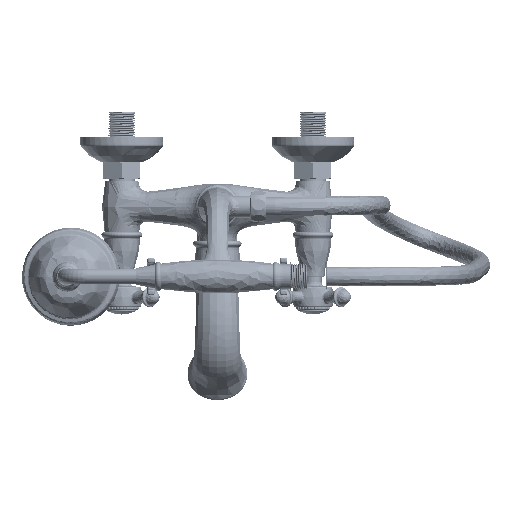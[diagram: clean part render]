
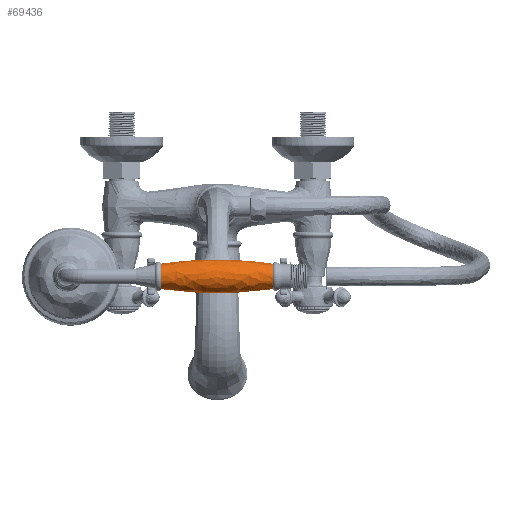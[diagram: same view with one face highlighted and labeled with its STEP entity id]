
A CAD part, top view. The second image highlights one B-rep face of the part: STEP entity #69436.
In plain terms, the highlighted free-form (B-spline) face has degree [2, 2] with [3, 9] control points.
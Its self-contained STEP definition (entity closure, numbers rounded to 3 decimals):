
#4222=(
BOUNDED_SURFACE()
B_SPLINE_SURFACE(2,2,((#104564,#104565,#104566,#104567,#104568,#104569,
#104570,#104571,#104572),(#104573,#104574,#104575,#104576,#104577,#104578,
#104579,#104580,#104581),(#104582,#104583,#104584,#104585,#104586,#104587,
#104588,#104589,#104590)),.UNSPECIFIED.,.F.,.T.,.F.)
B_SPLINE_SURFACE_WITH_KNOTS((3,3),(3,2,2,2,3),(-0.145,0.144),
(-3.142,-1.571,0.,1.571,3.142),
 .UNSPECIFIED.)
GEOMETRIC_REPRESENTATION_ITEM()
RATIONAL_B_SPLINE_SURFACE(((1.,0.707,1.,0.707,1.,
0.707,1.,0.707,1.),(0.99,0.7,
0.99,0.7,0.99,0.7,
0.99,0.7,0.99),(1.,0.707,
1.,0.707,1.,0.707,1.,0.707,1.)))
REPRESENTATION_ITEM('')
SURFACE()
);
#7570=FACE_OUTER_BOUND('',#11565,.T.);
#11565=EDGE_LOOP('',(#46441,#46442,#46443,#46444,#46445,#46446));
#22858=CIRCLE('',#73524,10.02);
#22859=CIRCLE('',#73525,10.02);
#22864=CIRCLE('',#73531,10.005);
#22865=CIRCLE('',#73532,10.005);
#22866=CIRCLE('',#73533,304.954);
#27201=VERTEX_POINT('',#104553);
#27202=VERTEX_POINT('',#104554);
#27205=VERTEX_POINT('',#104591);
#27206=VERTEX_POINT('',#104592);
#34911=EDGE_CURVE('',#27201,#27202,#22858,.T.);
#34912=EDGE_CURVE('',#27202,#27201,#22859,.T.);
#34917=EDGE_CURVE('',#27205,#27206,#22864,.T.);
#34918=EDGE_CURVE('',#27206,#27205,#22865,.T.);
#34919=EDGE_CURVE('',#27206,#27202,#22866,.T.);
#46441=ORIENTED_EDGE('',*,*,#34917,.F.);
#46442=ORIENTED_EDGE('',*,*,#34918,.F.);
#46443=ORIENTED_EDGE('',*,*,#34919,.T.);
#46444=ORIENTED_EDGE('',*,*,#34912,.T.);
#46445=ORIENTED_EDGE('',*,*,#34911,.T.);
#46446=ORIENTED_EDGE('',*,*,#34919,.F.);
#69436=ADVANCED_FACE('',(#7570),#4222,.F.);
#73524=AXIS2_PLACEMENT_3D('',#104555,#81302,#81303);
#73525=AXIS2_PLACEMENT_3D('',#104556,#81304,#81305);
#73531=AXIS2_PLACEMENT_3D('',#104593,#81316,#81317);
#73532=AXIS2_PLACEMENT_3D('',#104594,#81318,#81319);
#73533=AXIS2_PLACEMENT_3D('',#104595,#81320,#81321);
#81302=DIRECTION('center_axis',(-1.,0.,0.));
#81303=DIRECTION('ref_axis',(0.,1.,0.));
#81304=DIRECTION('center_axis',(-1.,0.,0.));
#81305=DIRECTION('ref_axis',(0.,1.,0.));
#81316=DIRECTION('center_axis',(-1.,0.,0.));
#81317=DIRECTION('ref_axis',(0.,1.,0.));
#81318=DIRECTION('center_axis',(-1.,0.,0.));
#81319=DIRECTION('ref_axis',(0.,1.,0.));
#81320=DIRECTION('center_axis',(0.,0.,
1.));
#81321=DIRECTION('ref_axis',(0.,-1.,0.));
#104553=CARTESIAN_POINT('',(43.507,-38.63,257.65));
#104554=CARTESIAN_POINT('',(43.507,-48.65,247.631));
#104555=CARTESIAN_POINT('Origin',(43.507,-38.631,247.631));
#104556=CARTESIAN_POINT('Origin',(43.507,-38.631,247.631));
#104564=CARTESIAN_POINT('Ctrl Pts',(-44.364,-48.636,
247.631));
#104565=CARTESIAN_POINT('Ctrl Pts',(-44.364,-48.636,
237.625));
#104566=CARTESIAN_POINT('Ctrl Pts',(-44.364,-38.631,
237.625));
#104567=CARTESIAN_POINT('Ctrl Pts',(-44.364,-28.625,
237.625));
#104568=CARTESIAN_POINT('Ctrl Pts',(-44.364,-28.625,
247.631));
#104569=CARTESIAN_POINT('Ctrl Pts',(-44.364,-28.625,
257.636));
#104570=CARTESIAN_POINT('Ctrl Pts',(-44.364,-38.631,
257.636));
#104571=CARTESIAN_POINT('Ctrl Pts',(-44.364,-48.636,
257.636));
#104572=CARTESIAN_POINT('Ctrl Pts',(-44.364,-48.636,
247.631));
#104573=CARTESIAN_POINT('Ctrl Pts',(-0.429,-55.04,
247.631));
#104574=CARTESIAN_POINT('Ctrl Pts',(-0.429,-55.04,
231.221));
#104575=CARTESIAN_POINT('Ctrl Pts',(-0.429,-38.631,
231.221));
#104576=CARTESIAN_POINT('Ctrl Pts',(-0.429,-22.221,
231.221));
#104577=CARTESIAN_POINT('Ctrl Pts',(-0.429,-22.221,
247.631));
#104578=CARTESIAN_POINT('Ctrl Pts',(-0.429,-22.221,
264.04));
#104579=CARTESIAN_POINT('Ctrl Pts',(-0.429,-38.631,
264.04));
#104580=CARTESIAN_POINT('Ctrl Pts',(-0.429,-55.04,
264.04));
#104581=CARTESIAN_POINT('Ctrl Pts',(-0.429,-55.04,
247.631));
#104582=CARTESIAN_POINT('Ctrl Pts',(43.507,-48.65,
247.631));
#104583=CARTESIAN_POINT('Ctrl Pts',(43.507,-48.65,
237.611));
#104584=CARTESIAN_POINT('Ctrl Pts',(43.507,-38.631,
237.611));
#104585=CARTESIAN_POINT('Ctrl Pts',(43.507,-28.611,
237.611));
#104586=CARTESIAN_POINT('Ctrl Pts',(43.507,-28.611,
247.631));
#104587=CARTESIAN_POINT('Ctrl Pts',(43.507,-28.611,
257.65));
#104588=CARTESIAN_POINT('Ctrl Pts',(43.507,-38.631,
257.65));
#104589=CARTESIAN_POINT('Ctrl Pts',(43.507,-48.65,
257.65));
#104590=CARTESIAN_POINT('Ctrl Pts',(43.507,-48.65,
247.631));
#104591=CARTESIAN_POINT('',(-44.364,-38.63,257.636));
#104592=CARTESIAN_POINT('',(-44.364,-48.636,247.631));
#104593=CARTESIAN_POINT('Origin',(-44.364,-38.631,247.631));
#104594=CARTESIAN_POINT('Origin',(-44.364,-38.631,247.631));
#104595=CARTESIAN_POINT('Origin',(-0.378,253.129,247.631));
